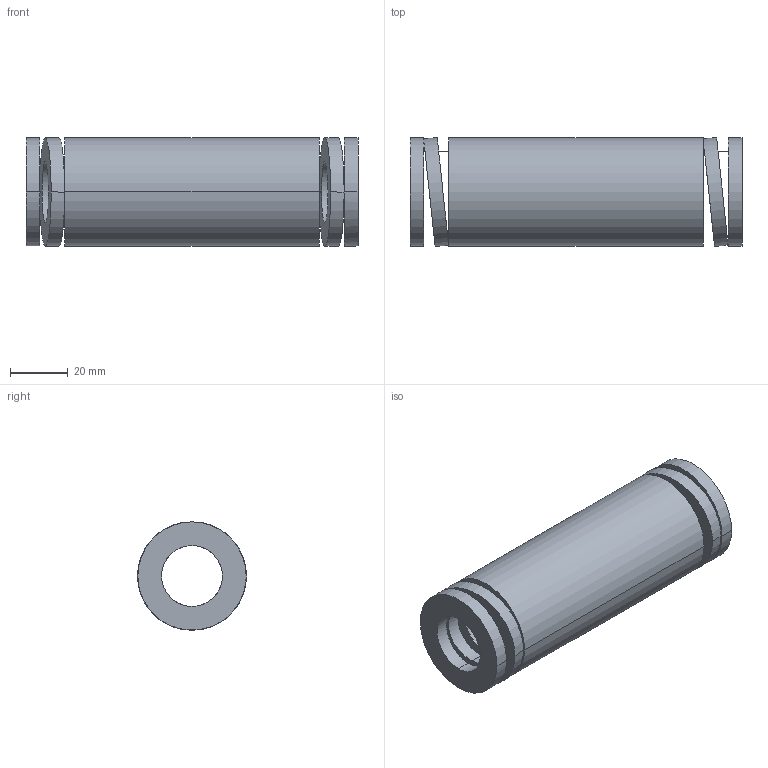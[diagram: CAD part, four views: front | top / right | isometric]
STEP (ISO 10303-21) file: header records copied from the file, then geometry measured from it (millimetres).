
FILE_DESCRIPTION(('CATIA V5 STEP Exchange'),'2;1');
FILE_NAME('C:\Users\Utente\Desktop\IO LAVORO\3D X SITO CF\X SITO\3D files 392B\392-B40-115.stp','2021-08-13T11:17:12+00:00',('none'),('none'),'CATIA Version 5 Release 20 GA (IN-10)','CATIA V5 STEP AP203','none');
FILE_SCHEMA(('CONFIG_CONTROL_DESIGN'));
Length unit declared in the file: millimetre
Products named in the file (1): 392-B40-115
Bounding box: 115 x 37.79 x 37.5 mm (x, y, z)
Volume: 80594.3 mm3; surface area: 27210.1 mm2
Topology: 1 solids, 1 shells, 38 faces, 92 edges, 64 vertices
Faces by surface type: cylinder 28, plane 10
Entity records: 1584 total; most frequent: CARTESIAN_POINT 695, ORIENTED_EDGE 184, DIRECTION 129, EDGE_CURVE 92, AXIS2_PLACEMENT_3D 64, VERTEX_POINT 64, EDGE_LOOP 56, B_SPLINE_CURVE_WITH_KNOTS 39
